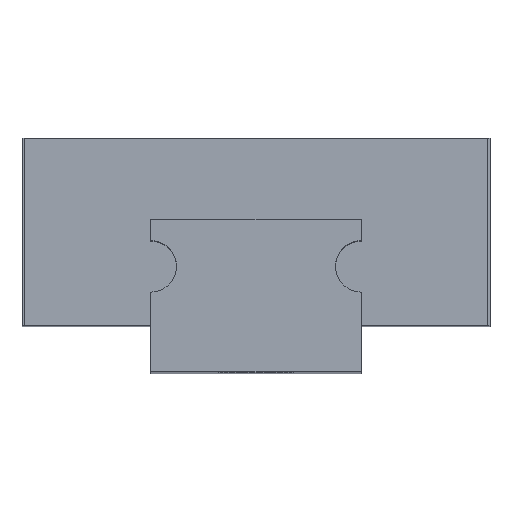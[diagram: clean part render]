
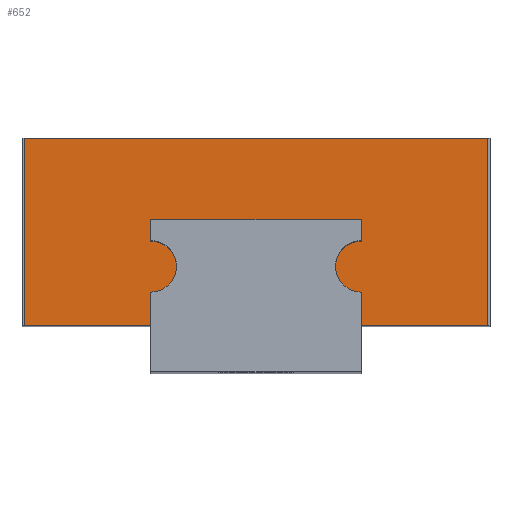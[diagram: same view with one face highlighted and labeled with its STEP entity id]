
A CAD part, top view. The second image highlights one B-rep face of the part: STEP entity #652.
In plain terms, the highlighted planar face has unit normal (0, 0, 1).
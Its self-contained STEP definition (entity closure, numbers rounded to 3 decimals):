
#1 = DIRECTION ( 'NONE',  ( 1., 0., 0. ) ) ;
#55 = CARTESIAN_POINT ( 'NONE',  ( -9.9, 4., 20.3 ) ) ;
#58 = VERTEX_POINT ( 'NONE', #810 ) ;
#73 = CARTESIAN_POINT ( 'NONE',  ( -4.5, -2.6, 20.3 ) ) ;
#93 = ORIENTED_EDGE ( 'NONE', *, *, #403, .F. ) ;
#97 = EDGE_CURVE ( 'NONE', #802, #1514, #229, .T. ) ;
#128 = VERTEX_POINT ( 'NONE', #1597 ) ;
#137 = CARTESIAN_POINT ( 'NONE',  ( 0., 0., 20.3 ) ) ;
#145 = EDGE_CURVE ( 'NONE', #515, #1747, #502, .T. ) ;
#157 = ORIENTED_EDGE ( 'NONE', *, *, #1082, .T. ) ;
#166 = DIRECTION ( 'NONE',  ( 0., 0., -1. ) ) ;
#194 = CARTESIAN_POINT ( 'NONE',  ( 4.5, -1.5, 20.3 ) ) ;
#219 = LINE ( 'NONE', #323, #1984 ) ;
#229 = LINE ( 'NONE', #1394, #2208 ) ;
#295 = VECTOR ( 'NONE', #1400, 1000. ) ;
#323 = CARTESIAN_POINT ( 'NONE',  ( -9.9, -4., 20.3 ) ) ;
#384 = CARTESIAN_POINT ( 'NONE',  ( -9.9, 4., 20.3 ) ) ;
#403 = EDGE_CURVE ( 'NONE', #882, #2110, #1457, .T. ) ;
#433 = DIRECTION ( 'NONE',  ( 0., 1., 0. ) ) ;
#443 = EDGE_CURVE ( 'NONE', #975, #1705, #874, .T. ) ;
#483 = DIRECTION ( 'NONE',  ( -1., 0., 0. ) ) ;
#502 = LINE ( 'NONE', #55, #2135 ) ;
#515 = VERTEX_POINT ( 'NONE', #384 ) ;
#537 = ORIENTED_EDGE ( 'NONE', *, *, #145, .T. ) ;
#606 = AXIS2_PLACEMENT_3D ( 'NONE', #2697, #1316, #1 ) ;
#646 = ORIENTED_EDGE ( 'NONE', *, *, #1471, .T. ) ;
#652 = ADVANCED_FACE ( 'NONE', ( #1271 ), #1452, .T. ) ;
#735 = EDGE_CURVE ( 'NONE', #1514, #58, #1357, .T. ) ;
#764 = VECTOR ( 'NONE', #433, 1000. ) ;
#785 = EDGE_CURVE ( 'NONE', #2110, #975, #1939, .T. ) ;
#802 = VERTEX_POINT ( 'NONE', #1098 ) ;
#810 = CARTESIAN_POINT ( 'NONE',  ( 4.5, -0.4, 20.3 ) ) ;
#871 = CARTESIAN_POINT ( 'NONE',  ( 9.9, 4., 20.3 ) ) ;
#874 = CIRCLE ( 'NONE', #606, 1.1 ) ;
#882 = VERTEX_POINT ( 'NONE', #2673 ) ;
#940 = DIRECTION ( 'NONE',  ( 0., -1., 0. ) ) ;
#941 = EDGE_CURVE ( 'NONE', #2803, #515, #2612, .T. ) ;
#966 = EDGE_LOOP ( 'NONE', ( #1027, #646, #2538, #1429, #537, #157, #1393, #2351, #2720, #1001, #93, #2526, #1397 ) ) ;
#975 = VERTEX_POINT ( 'NONE', #2534 ) ;
#979 = EDGE_CURVE ( 'NONE', #2470, #128, #1530, .T. ) ;
#1001 = ORIENTED_EDGE ( 'NONE', *, *, #785, .F. ) ;
#1003 = EDGE_CURVE ( 'NONE', #58, #882, #1765, .T. ) ;
#1018 = VECTOR ( 'NONE', #2422, 1000. ) ;
#1027 = ORIENTED_EDGE ( 'NONE', *, *, #97, .F. ) ;
#1031 = CARTESIAN_POINT ( 'NONE',  ( -9.9, -4., 20.3 ) ) ;
#1074 = DIRECTION ( 'NONE',  ( 0., 0., 1. ) ) ;
#1082 = EDGE_CURVE ( 'NONE', #1747, #128, #219, .T. ) ;
#1098 = CARTESIAN_POINT ( 'NONE',  ( 4.5, -4., 20.3 ) ) ;
#1166 = DIRECTION ( 'NONE',  ( 0., -1., 0. ) ) ;
#1271 = FACE_OUTER_BOUND ( 'NONE', #966, .T. ) ;
#1292 = DIRECTION ( 'NONE',  ( 1., 0., 0. ) ) ;
#1316 = DIRECTION ( 'NONE',  ( 0., 0., -1. ) ) ;
#1357 = CIRCLE ( 'NONE', #2688, 1.1 ) ;
#1365 = CARTESIAN_POINT ( 'NONE',  ( 4.5, -2.6, 20.3 ) ) ;
#1393 = ORIENTED_EDGE ( 'NONE', *, *, #979, .F. ) ;
#1394 = CARTESIAN_POINT ( 'NONE',  ( 4.5, -2.6, 20.3 ) ) ;
#1397 = ORIENTED_EDGE ( 'NONE', *, *, #735, .F. ) ;
#1400 = DIRECTION ( 'NONE',  ( 0., 1., 0. ) ) ;
#1429 = ORIENTED_EDGE ( 'NONE', *, *, #941, .T. ) ;
#1450 = VERTEX_POINT ( 'NONE', #2262 ) ;
#1452 = PLANE ( 'NONE',  #2569 ) ;
#1457 = LINE ( 'NONE', #1554, #2100 ) ;
#1471 = EDGE_CURVE ( 'NONE', #802, #1450, #1764, .T. ) ;
#1510 = CARTESIAN_POINT ( 'NONE',  ( -4.5, -1.5, 20.3 ) ) ;
#1514 = VERTEX_POINT ( 'NONE', #1365 ) ;
#1519 = CARTESIAN_POINT ( 'NONE',  ( -4.5, 0.5, 20.3 ) ) ;
#1530 = LINE ( 'NONE', #73, #2582 ) ;
#1543 = CARTESIAN_POINT ( 'NONE',  ( -4.5, -2.6, 20.3 ) ) ;
#1554 = CARTESIAN_POINT ( 'NONE',  ( -4.5, 0.5, 20.3 ) ) ;
#1576 = CARTESIAN_POINT ( 'NONE',  ( -9.9, -4., 20.3 ) ) ;
#1597 = CARTESIAN_POINT ( 'NONE',  ( -4.5, -4., 20.3 ) ) ;
#1705 = VERTEX_POINT ( 'NONE', #2116 ) ;
#1747 = VERTEX_POINT ( 'NONE', #1031 ) ;
#1764 = LINE ( 'NONE', #1576, #1938 ) ;
#1765 = LINE ( 'NONE', #2746, #295 ) ;
#1833 = DIRECTION ( 'NONE',  ( 0., 1., 0. ) ) ;
#1842 = DIRECTION ( 'NONE',  ( -1., 0., 0. ) ) ;
#1930 = DIRECTION ( 'NONE',  ( 1., 0., 0. ) ) ;
#1938 = VECTOR ( 'NONE', #2463, 1000. ) ;
#1939 = LINE ( 'NONE', #1519, #1018 ) ;
#1983 = LINE ( 'NONE', #871, #764 ) ;
#1984 = VECTOR ( 'NONE', #2779, 1000. ) ;
#2053 = CIRCLE ( 'NONE', #2088, 1.1 ) ;
#2084 = CARTESIAN_POINT ( 'NONE',  ( -9.9, 4., 20.3 ) ) ;
#2088 = AXIS2_PLACEMENT_3D ( 'NONE', #1510, #166, #1930 ) ;
#2100 = VECTOR ( 'NONE', #483, 1000. ) ;
#2110 = VERTEX_POINT ( 'NONE', #2509 ) ;
#2116 = CARTESIAN_POINT ( 'NONE',  ( -3.4, -1.5, 20.3 ) ) ;
#2135 = VECTOR ( 'NONE', #940, 1000. ) ;
#2208 = VECTOR ( 'NONE', #1833, 1000. ) ;
#2262 = CARTESIAN_POINT ( 'NONE',  ( 9.9, -4., 20.3 ) ) ;
#2274 = VECTOR ( 'NONE', #1842, 1000. ) ;
#2291 = EDGE_CURVE ( 'NONE', #1705, #2470, #2053, .T. ) ;
#2351 = ORIENTED_EDGE ( 'NONE', *, *, #2291, .F. ) ;
#2410 = DIRECTION ( 'NONE',  ( 0., 0., -1. ) ) ;
#2420 = CARTESIAN_POINT ( 'NONE',  ( 9.9, 4., 20.3 ) ) ;
#2422 = DIRECTION ( 'NONE',  ( 0., -1., 0. ) ) ;
#2463 = DIRECTION ( 'NONE',  ( 1., 0., 0. ) ) ;
#2470 = VERTEX_POINT ( 'NONE', #1543 ) ;
#2509 = CARTESIAN_POINT ( 'NONE',  ( -4.5, 0.5, 20.3 ) ) ;
#2526 = ORIENTED_EDGE ( 'NONE', *, *, #1003, .F. ) ;
#2534 = CARTESIAN_POINT ( 'NONE',  ( -4.5, -0.4, 20.3 ) ) ;
#2538 = ORIENTED_EDGE ( 'NONE', *, *, #2818, .T. ) ;
#2569 = AXIS2_PLACEMENT_3D ( 'NONE', #137, #1074, #2861 ) ;
#2582 = VECTOR ( 'NONE', #1166, 1000. ) ;
#2612 = LINE ( 'NONE', #2084, #2274 ) ;
#2673 = CARTESIAN_POINT ( 'NONE',  ( 4.5, 0.5, 20.3 ) ) ;
#2688 = AXIS2_PLACEMENT_3D ( 'NONE', #194, #2410, #1292 ) ;
#2697 = CARTESIAN_POINT ( 'NONE',  ( -4.5, -1.5, 20.3 ) ) ;
#2720 = ORIENTED_EDGE ( 'NONE', *, *, #443, .F. ) ;
#2746 = CARTESIAN_POINT ( 'NONE',  ( 4.5, 0.5, 20.3 ) ) ;
#2779 = DIRECTION ( 'NONE',  ( 1., 0., 0. ) ) ;
#2803 = VERTEX_POINT ( 'NONE', #2420 ) ;
#2818 = EDGE_CURVE ( 'NONE', #1450, #2803, #1983, .T. ) ;
#2861 = DIRECTION ( 'NONE',  ( 1., 0., 0. ) ) ;
